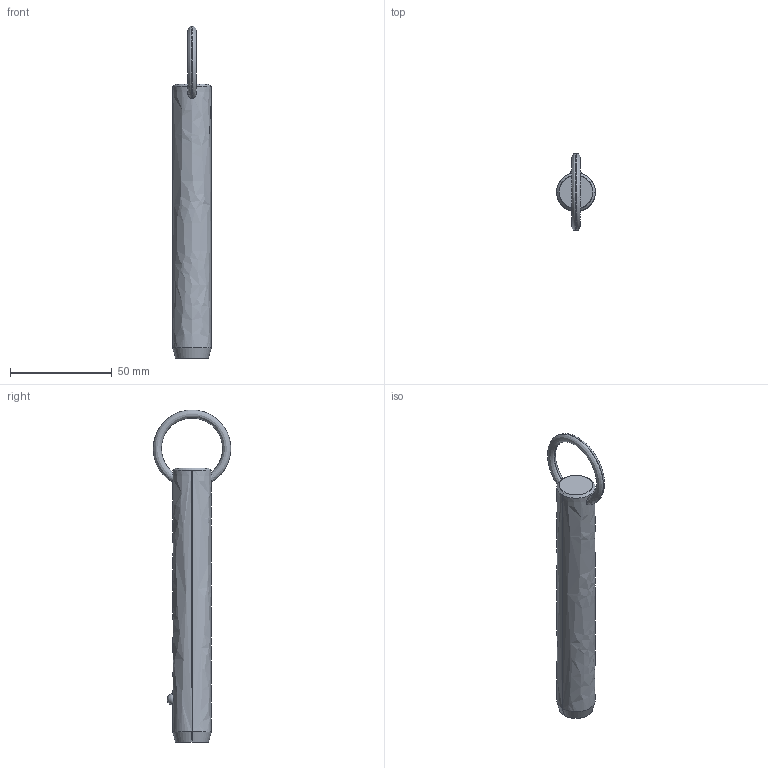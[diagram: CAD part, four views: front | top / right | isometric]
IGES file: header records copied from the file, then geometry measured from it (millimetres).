
Start section: SolidWorks IGES file using analytic representation for surfaces
Global section: file name: C:\Users\liam_\OneDrive\Documents\WORK\Work for WixRoyd\Job Files\J-00019 - Matt Davis CAD Checking\04. CAD Drawings\automotion20190605\P1250.2_v2\P1250.2_v2_20190729_IGES\P1250.075-400.igs; native system: SolidWorks 2017; preprocessor: SolidWorks 2017; author: liam_; date: 190729.235356; units: millimetre
Bounding box: 19 x 38.1 x 163.39 mm (x, y, z)
Surface area: 9579.1 mm2 (no closed solid volume)
Topology: 0 solids, 0 shells, 12 faces, 294 edges, 292 vertices
Faces by surface type: revolution 8, bspline 4
